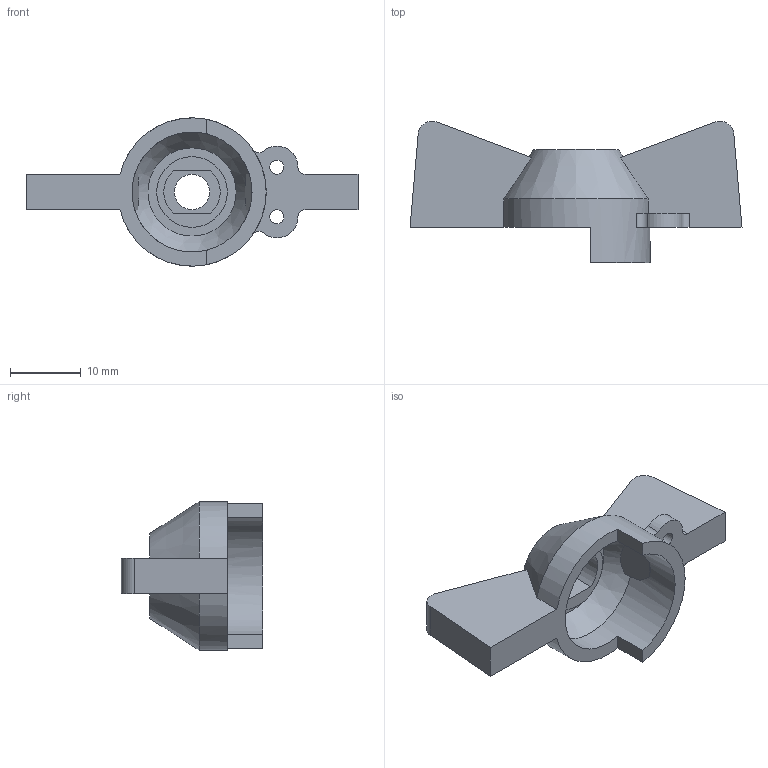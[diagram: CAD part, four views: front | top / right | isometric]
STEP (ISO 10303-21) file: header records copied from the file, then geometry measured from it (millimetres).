
FILE_DESCRIPTION(('STEP AP203'), '1');
FILE_NAME('Ðó÷êà _ À.006', '', ('UNSPECIFIED'), ('UNSPECIFIED'), 'C3D Converter', 'C3D Toolkit', '');
FILE_SCHEMA(('CONFIG_CONTROL_DESIGN'));
Length unit declared in the file: millimetre
Products named in the file (1): А.006
Bounding box: 47 x 20 x 21 mm (x, y, z)
Volume: 3574.3 mm3; surface area: 2972.4 mm2
Topology: 1 solids, 1 shells, 46 faces, 130 edges, 86 vertices
Faces by surface type: plane 28, cylinder 16, cone 2
Full cylindrical faces by diameter (mm): 2 x2, 5 x1, 10 x1
Entity records: 2118 total; most frequent: CARTESIAN_POINT 523, DIRECTION 248, ORIENTED_EDGE 248, EDGE_CURVE 124, AXIS2_PLACEMENT_3D 94, VERTEX_POINT 86, LINE 60, VECTOR 60
